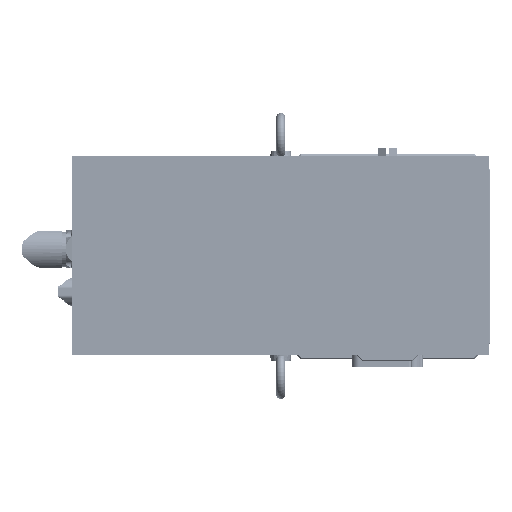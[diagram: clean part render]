
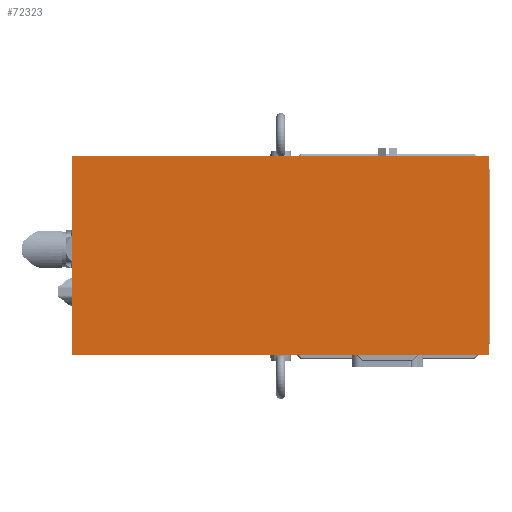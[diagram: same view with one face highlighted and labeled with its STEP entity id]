
A CAD part, top view. The second image highlights one B-rep face of the part: STEP entity #72323.
In plain terms, the highlighted planar face has unit normal (0, 0, 1).
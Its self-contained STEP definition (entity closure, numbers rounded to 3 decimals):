
#72284=CARTESIAN_POINT('',(-75.5,-77.,621.));
#72285=DIRECTION('',(0.,-1.,0.));
#72286=DIRECTION('',(-0.,0.,1.));
#72287=AXIS2_PLACEMENT_3D('',#72284,#72286,#72285);
#72288=PLANE('',#72287);
#72289=CARTESIAN_POINT('',(72.,70.5,621.));
#72290=VERTEX_POINT('',#72289);
#72291=CARTESIAN_POINT('',(-223.,70.5,621.));
#72292=VERTEX_POINT('',#72291);
#72293=CARTESIAN_POINT('',(72.,70.5,621.));
#72294=DIRECTION('',(-1.,0.,0.));
#72295=VECTOR('',#72294,295.);
#72296=LINE('',#72293,#72295);
#72297=EDGE_CURVE('',#72290,#72292,#72296,.T.);
#72298=ORIENTED_EDGE('E1',*,*,#72297,.T.);
#72299=CARTESIAN_POINT('',(-223.,-70.5,621.));
#72300=VERTEX_POINT('',#72299);
#72301=CARTESIAN_POINT('',(-223.,70.5,621.));
#72302=DIRECTION('',(0.,-1.,0.));
#72303=VECTOR('',#72302,141.);
#72304=LINE('',#72301,#72303);
#72305=EDGE_CURVE('',#72292,#72300,#72304,.T.);
#72306=ORIENTED_EDGE('E2',*,*,#72305,.T.);
#72307=CARTESIAN_POINT('',(72.,-70.5,621.));
#72308=VERTEX_POINT('',#72307);
#72309=CARTESIAN_POINT('',(-223.,-70.5,621.));
#72310=DIRECTION('',(1.,0.,0.));
#72311=VECTOR('',#72310,295.);
#72312=LINE('',#72309,#72311);
#72313=EDGE_CURVE('',#72300,#72308,#72312,.T.);
#72314=ORIENTED_EDGE('E3',*,*,#72313,.T.);
#72315=CARTESIAN_POINT('',(72.,-70.5,621.));
#72316=DIRECTION('',(0.,1.,0.));
#72317=VECTOR('',#72316,141.);
#72318=LINE('',#72315,#72317);
#72319=EDGE_CURVE('',#72308,#72290,#72318,.T.);
#72320=ORIENTED_EDGE('E4',*,*,#72319,.T.);
#72321=EDGE_LOOP('',(#72298,#72306,#72314,#72320));
#72322=FACE_OUTER_BOUND('',#72321,.T.);
#72323=ADVANCED_FACE('F1',(#72322),#72288,.T.);
